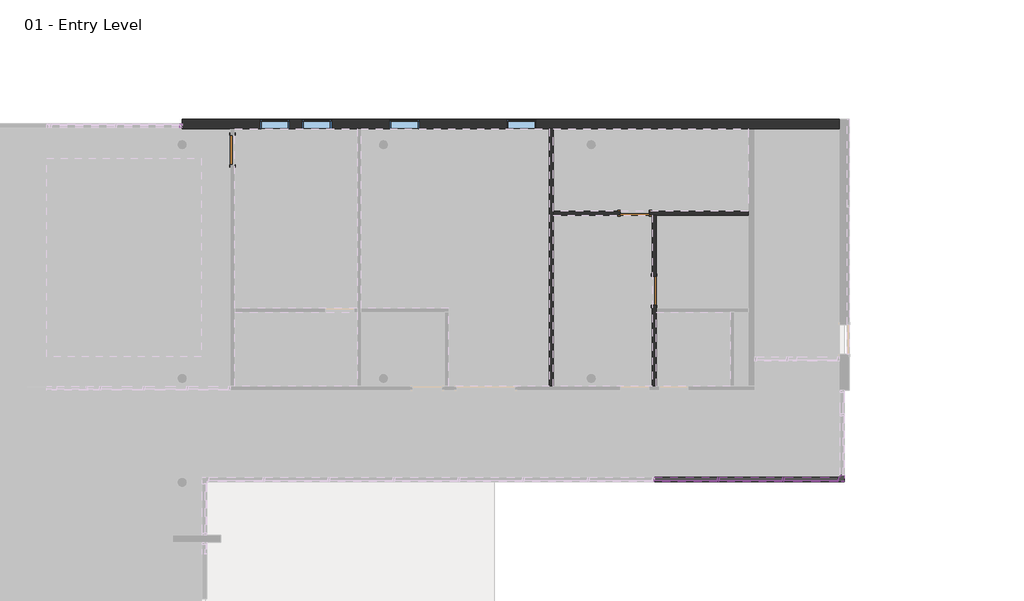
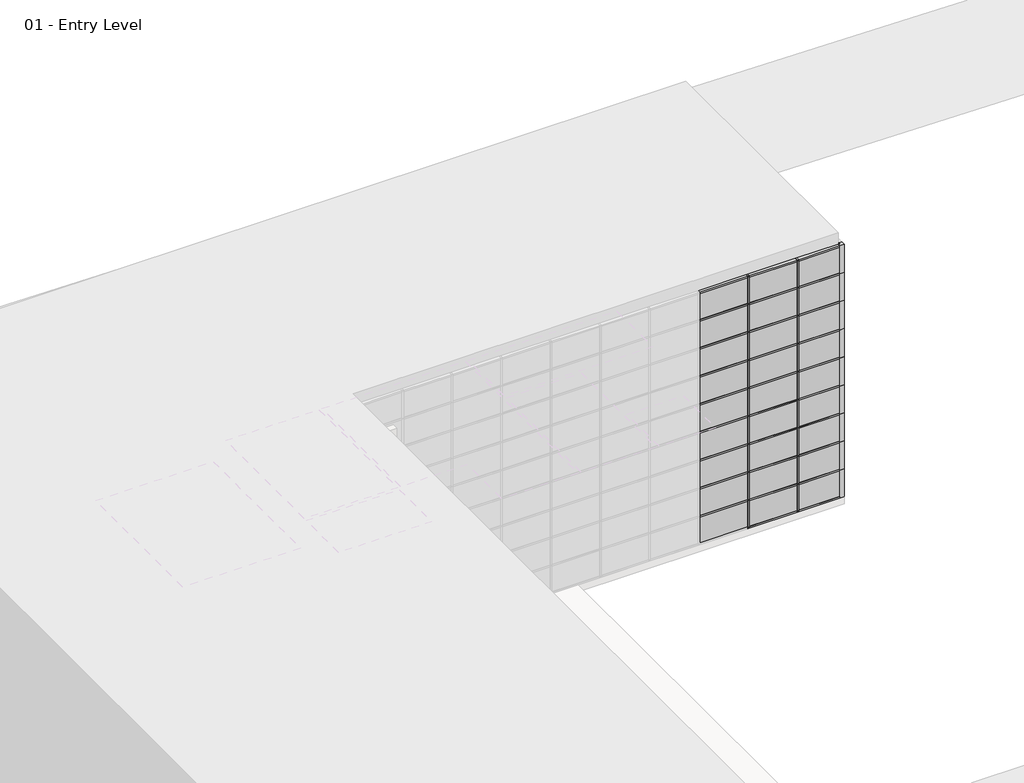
# One storey, part 30 of 34: 60 members, 27 plates, 4 walls, 4 windows, 3 doors.
"""IFC4 building model written with IfcOpenShell, lengths in millimetres."""

from ifc_helpers import new_model, si_unit, origin, place, context, project, spatial, faceted_brep, transform, mapped, element, save
from components import door_a1797ceb, door_a3eb833a, member_6230916f, member_2b49869a, member_391b434c, member_9e90ae50, member_515a5600, member_9fe7059d, member_9822c4e5, system_panel_glazed_1b9d6098, system_panel_glazed_70da479d, system_panel_glazed_379c68fb, system_panel_glazed_1c1023c8, window_dfee3f32

model = new_model("IFC4")

# Units and contexts
model_context = context("Model", 3, world=origin())
ifc_project = project(units=[si_unit("LENGTHUNIT", "METRE", prefix="MILLI")], contexts=[model_context])

# Site, building, storey
site = spatial("IfcSite", under=ifc_project)
building = spatial("IfcBuilding", under=site)
storey = spatial("IfcBuildingStorey", under=building, Name="01 - Entry Level", Elevation=0.0)

# Doors
placement = place(None, origin())
door_shape = door_a1797ceb(model_context)
element("IfcDoor", 1, ObjectType="Single-Flush : 36\" x 84\"", at=placement, inside=storey, context=model_context, shape_type="MappedRepresentation", body=[
    mapped(door_shape, transform((31255.6207476, 48656.8, 0.0), x_axis=(0.0, -1.0, 0.0), y_axis=(1.0, 0.0, 0.0), z_axis=(0.0, 0.0, 1.0))),
])
door_2_shape = door_a3eb833a(model_context)
element("IfcDoor", 2, ObjectType="Single-Flush : 36\" x 84\"", at=placement, inside=storey, context=model_context, shape_type="MappedRepresentation", body=[
    mapped(door_2_shape, transform((30646.0207476, 51082.5, 0.0), x_axis=(1.0, 0.0, 0.0), y_axis=(0.0, 1.0, 0.0), z_axis=(0.0, 0.0, 1.0))),
])
element("IfcDoor", 3, ObjectType="Single-Flush-Dbl Acting : 36\" x 84\"", at=placement, inside=storey, context=model_context, shape_type="MappedRepresentation", body=[
    mapped(door_shape, transform((18060.3207476, 53063.7, 0.0), x_axis=(0.0, 1.0, 0.0), y_axis=(-1.0, 0.0, 0.0), z_axis=(0.0, 0.0, 1.0))),
])

# Members
member_shape = member_6230916f(model_context)
element("IfcMember", 4, ObjectType="L Corner Mullion : 5\" x 5\" Corner", at=placement, inside=storey, context=model_context, shape_type="MappedRepresentation", body=[
    mapped(member_shape, transform((37148.4207476, 42751.3, 10972.8), x_axis=(0.0, -1.0, 0.0), y_axis=(1.0, 0.0, 0.0), z_axis=(0.0, 0.0, 1.0))),
])
element("IfcMember", 5, ObjectType="L Corner Mullion : 5\" x 5\" Corner", at=placement, inside=storey, context=model_context, shape_type="MappedRepresentation", body=[
    mapped(member_shape, transform((37148.4207476, 42751.3, 1219.2), x_axis=(0.0, -1.0, 0.0), y_axis=(1.0, 0.0, 0.0), z_axis=(0.0, 0.0, 1.0))),
])
element("IfcMember", 6, ObjectType="L Corner Mullion : 5\" x 5\" Corner", at=placement, inside=storey, context=model_context, shape_type="MappedRepresentation", body=[
    mapped(member_shape, transform((37148.4207476, 42751.3, 2438.4), x_axis=(0.0, -1.0, 0.0), y_axis=(1.0, 0.0, 0.0), z_axis=(0.0, 0.0, 1.0))),
])
element("IfcMember", 7, ObjectType="L Corner Mullion : 5\" x 5\" Corner", at=placement, inside=storey, context=model_context, shape_type="MappedRepresentation", body=[
    mapped(member_shape, transform((37148.4207476, 42751.3, 3657.6), x_axis=(0.0, -1.0, 0.0), y_axis=(1.0, 0.0, 0.0), z_axis=(0.0, 0.0, 1.0))),
])
element("IfcMember", 8, ObjectType="L Corner Mullion : 5\" x 5\" Corner", at=placement, inside=storey, context=model_context, shape_type="MappedRepresentation", body=[
    mapped(member_shape, transform((37148.4207476, 42751.3, 4876.8), x_axis=(0.0, -1.0, 0.0), y_axis=(1.0, 0.0, 0.0), z_axis=(0.0, 0.0, 1.0))),
])
element("IfcMember", 9, ObjectType="L Corner Mullion : 5\" x 5\" Corner", at=placement, inside=storey, context=model_context, shape_type="MappedRepresentation", body=[
    mapped(member_shape, transform((37148.4207476, 42751.3, 6096.0), x_axis=(0.0, -1.0, 0.0), y_axis=(1.0, 0.0, 0.0), z_axis=(0.0, 0.0, 1.0))),
])
element("IfcMember", 10, ObjectType="L Corner Mullion : 5\" x 5\" Corner", at=placement, inside=storey, context=model_context, shape_type="MappedRepresentation", body=[
    mapped(member_shape, transform((37148.4207476, 42751.3, 7315.2), x_axis=(0.0, -1.0, 0.0), y_axis=(1.0, 0.0, 0.0), z_axis=(0.0, 0.0, 1.0))),
])
element("IfcMember", 11, ObjectType="L Corner Mullion : 5\" x 5\" Corner", at=placement, inside=storey, context=model_context, shape_type="MappedRepresentation", body=[
    mapped(member_shape, transform((37148.4207476, 42751.3, 8534.4), x_axis=(0.0, -1.0, 0.0), y_axis=(1.0, 0.0, 0.0), z_axis=(0.0, 0.0, 1.0))),
])
element("IfcMember", 12, ObjectType="L Corner Mullion : 5\" x 5\" Corner", at=placement, inside=storey, context=model_context, shape_type="MappedRepresentation", body=[
    mapped(member_shape, transform((37148.4207476, 42751.3, 9753.6), x_axis=(0.0, -1.0, 0.0), y_axis=(1.0, 0.0, 0.0), z_axis=(0.0, 0.0, 1.0))),
])
member_2_shape = member_2b49869a(model_context)
element("IfcMember", 13, ObjectType="Rectangular Mullion : 2.5\" x 5\" rectangular", at=placement, inside=storey, context=model_context, shape_type="MappedRepresentation", body=[
    mapped(member_2_shape, transform((33262.2207476, 42751.3, 9753.6), x_axis=(1.0, 0.0, 0.0), y_axis=(0.0, -1.0, 0.0), z_axis=(0.0, 0.0, -1.0))),
])
element("IfcMember", 14, ObjectType="Rectangular Mullion : 2.5\" x 5\" rectangular", at=placement, inside=storey, context=model_context, shape_type="MappedRepresentation", body=[
    mapped(member_2_shape, transform((35294.2207476, 42751.3, 9753.6), x_axis=(1.0, 0.0, 0.0), y_axis=(0.0, -1.0, 0.0), z_axis=(0.0, 0.0, -1.0))),
])
element("IfcMember", 15, ObjectType="Rectangular Mullion : 2.5\" x 5\" rectangular", at=placement, inside=storey, context=model_context, shape_type="MappedRepresentation", body=[
    mapped(member_2_shape, transform((16434.7207476, 53825.7, 9753.6), x_axis=(-1.0, 0.0, 0.0), y_axis=(0.0, 1.0, 0.0), z_axis=(0.0, 0.0, -1.0))),
])
member_3_shape = member_391b434c(model_context)
element("IfcMember", 16, ObjectType="Rectangular Mullion : 2.5\" x 5\" rectangular", at=placement, inside=storey, context=model_context, shape_type="MappedRepresentation", body=[
    mapped(member_3_shape, transform((33230.4707476, 42751.3, 10972.8), x_axis=(0.0, 0.0, 1.0), y_axis=(0.0, -1.0, 0.0), z_axis=(1.0, 0.0, 0.0))),
])
element("IfcMember", 17, ObjectType="Rectangular Mullion : 2.5\" x 5\" rectangular", at=placement, inside=storey, context=model_context, shape_type="MappedRepresentation", body=[
    mapped(member_3_shape, transform((35262.4707476, 42751.3, 10972.8), x_axis=(0.0, 0.0, 1.0), y_axis=(0.0, -1.0, 0.0), z_axis=(1.0, 0.0, 0.0))),
])
element("IfcMember", 18, ObjectType="Rectangular Mullion : 2.5\" x 5\" rectangular", at=placement, inside=storey, context=model_context, shape_type="MappedRepresentation", body=[
    mapped(member_3_shape, transform((33293.9707476, 42751.3, 0.0), x_axis=(0.0, 0.0, -1.0), y_axis=(0.0, -1.0, 0.0), z_axis=(-1.0, 0.0, 0.0))),
])
member_4_shape = member_9e90ae50(model_context)
element("IfcMember", 19, ObjectType="Rectangular Mullion : 2.5\" x 5\" rectangular", at=placement, inside=storey, context=model_context, shape_type="MappedRepresentation", body=[
    mapped(member_4_shape, transform((33230.4707476, 42751.3, 1219.2), x_axis=(0.0, 0.0, 1.0), y_axis=(0.0, -1.0, 0.0), z_axis=(1.0, 0.0, 0.0))),
])
element("IfcMember", 20, ObjectType="Rectangular Mullion : 2.5\" x 5\" rectangular", at=placement, inside=storey, context=model_context, shape_type="MappedRepresentation", body=[
    mapped(member_4_shape, transform((35262.4707476, 42751.3, 1219.2), x_axis=(0.0, 0.0, 1.0), y_axis=(0.0, -1.0, 0.0), z_axis=(1.0, 0.0, 0.0))),
])
element("IfcMember", 21, ObjectType="Rectangular Mullion : 2.5\" x 5\" rectangular", at=placement, inside=storey, context=model_context, shape_type="MappedRepresentation", body=[
    mapped(member_4_shape, transform((33230.4707476, 42751.3, 2438.4), x_axis=(0.0, 0.0, 1.0), y_axis=(0.0, -1.0, 0.0), z_axis=(1.0, 0.0, 0.0))),
])
element("IfcMember", 22, ObjectType="Rectangular Mullion : 2.5\" x 5\" rectangular", at=placement, inside=storey, context=model_context, shape_type="MappedRepresentation", body=[
    mapped(member_4_shape, transform((35262.4707476, 42751.3, 2438.4), x_axis=(0.0, 0.0, 1.0), y_axis=(0.0, -1.0, 0.0), z_axis=(1.0, 0.0, 0.0))),
])
element("IfcMember", 23, ObjectType="Rectangular Mullion : 2.5\" x 5\" rectangular", at=placement, inside=storey, context=model_context, shape_type="MappedRepresentation", body=[
    mapped(member_4_shape, transform((33230.4707476, 42751.3, 3657.6), x_axis=(0.0, 0.0, 1.0), y_axis=(0.0, -1.0, 0.0), z_axis=(1.0, 0.0, 0.0))),
])
element("IfcMember", 24, ObjectType="Rectangular Mullion : 2.5\" x 5\" rectangular", at=placement, inside=storey, context=model_context, shape_type="MappedRepresentation", body=[
    mapped(member_4_shape, transform((35262.4707476, 42751.3, 3657.6), x_axis=(0.0, 0.0, 1.0), y_axis=(0.0, -1.0, 0.0), z_axis=(1.0, 0.0, 0.0))),
])
element("IfcMember", 25, ObjectType="Rectangular Mullion : 2.5\" x 5\" rectangular", at=placement, inside=storey, context=model_context, shape_type="MappedRepresentation", body=[
    mapped(member_4_shape, transform((33230.4707476, 42751.3, 4876.8), x_axis=(0.0, 0.0, 1.0), y_axis=(0.0, -1.0, 0.0), z_axis=(1.0, 0.0, 0.0))),
])
element("IfcMember", 26, ObjectType="Rectangular Mullion : 2.5\" x 5\" rectangular", at=placement, inside=storey, context=model_context, shape_type="MappedRepresentation", body=[
    mapped(member_4_shape, transform((35262.4707476, 42751.3, 4876.8), x_axis=(0.0, 0.0, 1.0), y_axis=(0.0, -1.0, 0.0), z_axis=(1.0, 0.0, 0.0))),
])
element("IfcMember", 27, ObjectType="Rectangular Mullion : 2.5\" x 5\" rectangular", at=placement, inside=storey, context=model_context, shape_type="MappedRepresentation", body=[
    mapped(member_4_shape, transform((33230.4707476, 42751.3, 6096.0), x_axis=(0.0, 0.0, 1.0), y_axis=(0.0, -1.0, 0.0), z_axis=(1.0, 0.0, 0.0))),
])
element("IfcMember", 28, ObjectType="Rectangular Mullion : 2.5\" x 5\" rectangular", at=placement, inside=storey, context=model_context, shape_type="MappedRepresentation", body=[
    mapped(member_4_shape, transform((35262.4707476, 42751.3, 6096.0), x_axis=(0.0, 0.0, 1.0), y_axis=(0.0, -1.0, 0.0), z_axis=(1.0, 0.0, 0.0))),
])
element("IfcMember", 29, ObjectType="Rectangular Mullion : 2.5\" x 5\" rectangular", at=placement, inside=storey, context=model_context, shape_type="MappedRepresentation", body=[
    mapped(member_4_shape, transform((33230.4707476, 42751.3, 7315.2), x_axis=(0.0, 0.0, 1.0), y_axis=(0.0, -1.0, 0.0), z_axis=(1.0, 0.0, 0.0))),
])
element("IfcMember", 30, ObjectType="Rectangular Mullion : 2.5\" x 5\" rectangular", at=placement, inside=storey, context=model_context, shape_type="MappedRepresentation", body=[
    mapped(member_4_shape, transform((35262.4707476, 42751.3, 7315.2), x_axis=(0.0, 0.0, 1.0), y_axis=(0.0, -1.0, 0.0), z_axis=(1.0, 0.0, 0.0))),
])
element("IfcMember", 31, ObjectType="Rectangular Mullion : 2.5\" x 5\" rectangular", at=placement, inside=storey, context=model_context, shape_type="MappedRepresentation", body=[
    mapped(member_4_shape, transform((33230.4707476, 42751.3, 8534.4), x_axis=(0.0, 0.0, 1.0), y_axis=(0.0, -1.0, 0.0), z_axis=(1.0, 0.0, 0.0))),
])
element("IfcMember", 32, ObjectType="Rectangular Mullion : 2.5\" x 5\" rectangular", at=placement, inside=storey, context=model_context, shape_type="MappedRepresentation", body=[
    mapped(member_4_shape, transform((35262.4707476, 42751.3, 8534.4), x_axis=(0.0, 0.0, 1.0), y_axis=(0.0, -1.0, 0.0), z_axis=(1.0, 0.0, 0.0))),
])
element("IfcMember", 33, ObjectType="Rectangular Mullion : 2.5\" x 5\" rectangular", at=placement, inside=storey, context=model_context, shape_type="MappedRepresentation", body=[
    mapped(member_4_shape, transform((33230.4707476, 42751.3, 9753.6), x_axis=(0.0, 0.0, 1.0), y_axis=(0.0, -1.0, 0.0), z_axis=(1.0, 0.0, 0.0))),
])
element("IfcMember", 34, ObjectType="Rectangular Mullion : 2.5\" x 5\" rectangular", at=placement, inside=storey, context=model_context, shape_type="MappedRepresentation", body=[
    mapped(member_4_shape, transform((35262.4707476, 42751.3, 9753.6), x_axis=(0.0, 0.0, 1.0), y_axis=(0.0, -1.0, 0.0), z_axis=(1.0, 0.0, 0.0))),
])
element("IfcMember", 35, ObjectType="Rectangular Mullion : 2.5\" x 5\" rectangular", at=placement, inside=storey, context=model_context, shape_type="MappedRepresentation", body=[
    mapped(member_2_shape, transform((33262.2207476, 42751.3, 0.0), x_axis=(1.0, 0.0, 0.0), y_axis=(0.0, -1.0, 0.0), z_axis=(0.0, 0.0, -1.0))),
])
element("IfcMember", 36, ObjectType="Rectangular Mullion : 2.5\" x 5\" rectangular", at=placement, inside=storey, context=model_context, shape_type="MappedRepresentation", body=[
    mapped(member_2_shape, transform((35294.2207476, 42751.3, 0.0), x_axis=(1.0, 0.0, 0.0), y_axis=(0.0, -1.0, 0.0), z_axis=(0.0, 0.0, -1.0))),
])
element("IfcMember", 37, ObjectType="Rectangular Mullion : 2.5\" x 5\" rectangular", at=placement, inside=storey, context=model_context, shape_type="MappedRepresentation", body=[
    mapped(member_2_shape, transform((33262.2207476, 42751.3, 1219.2), x_axis=(1.0, 0.0, 0.0), y_axis=(0.0, -1.0, 0.0), z_axis=(0.0, 0.0, -1.0))),
])
element("IfcMember", 38, ObjectType="Rectangular Mullion : 2.5\" x 5\" rectangular", at=placement, inside=storey, context=model_context, shape_type="MappedRepresentation", body=[
    mapped(member_2_shape, transform((35294.2207476, 42751.3, 1219.2), x_axis=(1.0, 0.0, 0.0), y_axis=(0.0, -1.0, 0.0), z_axis=(0.0, 0.0, -1.0))),
])
element("IfcMember", 39, ObjectType="Rectangular Mullion : 2.5\" x 5\" rectangular", at=placement, inside=storey, context=model_context, shape_type="MappedRepresentation", body=[
    mapped(member_2_shape, transform((33262.2207476, 42751.3, 2438.4), x_axis=(1.0, 0.0, 0.0), y_axis=(0.0, -1.0, 0.0), z_axis=(0.0, 0.0, -1.0))),
])
element("IfcMember", 40, ObjectType="Rectangular Mullion : 2.5\" x 5\" rectangular", at=placement, inside=storey, context=model_context, shape_type="MappedRepresentation", body=[
    mapped(member_2_shape, transform((35294.2207476, 42751.3, 2438.4), x_axis=(1.0, 0.0, 0.0), y_axis=(0.0, -1.0, 0.0), z_axis=(0.0, 0.0, -1.0))),
])
element("IfcMember", 41, ObjectType="Rectangular Mullion : 2.5\" x 5\" rectangular", at=placement, inside=storey, context=model_context, shape_type="MappedRepresentation", body=[
    mapped(member_2_shape, transform((33262.2207476, 42751.3, 3657.6), x_axis=(1.0, 0.0, 0.0), y_axis=(0.0, -1.0, 0.0), z_axis=(0.0, 0.0, -1.0))),
])
element("IfcMember", 42, ObjectType="Rectangular Mullion : 2.5\" x 5\" rectangular", at=placement, inside=storey, context=model_context, shape_type="MappedRepresentation", body=[
    mapped(member_2_shape, transform((35294.2207476, 42751.3, 3657.6), x_axis=(1.0, 0.0, 0.0), y_axis=(0.0, -1.0, 0.0), z_axis=(0.0, 0.0, -1.0))),
])
element("IfcMember", 43, ObjectType="Rectangular Mullion : 2.5\" x 5\" rectangular", at=placement, inside=storey, context=model_context, shape_type="MappedRepresentation", body=[
    mapped(member_2_shape, transform((33262.2207476, 42751.3, 4876.8), x_axis=(1.0, 0.0, 0.0), y_axis=(0.0, -1.0, 0.0), z_axis=(0.0, 0.0, -1.0))),
])
element("IfcMember", 44, ObjectType="Rectangular Mullion : 2.5\" x 5\" rectangular", at=placement, inside=storey, context=model_context, shape_type="MappedRepresentation", body=[
    mapped(member_2_shape, transform((35294.2207476, 42751.3, 4876.8), x_axis=(1.0, 0.0, 0.0), y_axis=(0.0, -1.0, 0.0), z_axis=(0.0, 0.0, -1.0))),
])
element("IfcMember", 45, ObjectType="Rectangular Mullion : 2.5\" x 5\" rectangular", at=placement, inside=storey, context=model_context, shape_type="MappedRepresentation", body=[
    mapped(member_2_shape, transform((33262.2207476, 42751.3, 6096.0), x_axis=(1.0, 0.0, 0.0), y_axis=(0.0, -1.0, 0.0), z_axis=(0.0, 0.0, -1.0))),
])
element("IfcMember", 46, ObjectType="Rectangular Mullion : 2.5\" x 5\" rectangular", at=placement, inside=storey, context=model_context, shape_type="MappedRepresentation", body=[
    mapped(member_2_shape, transform((35294.2207476, 42751.3, 6096.0), x_axis=(1.0, 0.0, 0.0), y_axis=(0.0, -1.0, 0.0), z_axis=(0.0, 0.0, -1.0))),
])
element("IfcMember", 47, ObjectType="Rectangular Mullion : 2.5\" x 5\" rectangular", at=placement, inside=storey, context=model_context, shape_type="MappedRepresentation", body=[
    mapped(member_2_shape, transform((33262.2207476, 42751.3, 7315.2), x_axis=(1.0, 0.0, 0.0), y_axis=(0.0, -1.0, 0.0), z_axis=(0.0, 0.0, -1.0))),
])
element("IfcMember", 48, ObjectType="Rectangular Mullion : 2.5\" x 5\" rectangular", at=placement, inside=storey, context=model_context, shape_type="MappedRepresentation", body=[
    mapped(member_2_shape, transform((35294.2207476, 42751.3, 7315.2), x_axis=(1.0, 0.0, 0.0), y_axis=(0.0, -1.0, 0.0), z_axis=(0.0, 0.0, -1.0))),
])
element("IfcMember", 49, ObjectType="Rectangular Mullion : 2.5\" x 5\" rectangular", at=placement, inside=storey, context=model_context, shape_type="MappedRepresentation", body=[
    mapped(member_2_shape, transform((33262.2207476, 42751.3, 8534.4), x_axis=(1.0, 0.0, 0.0), y_axis=(0.0, -1.0, 0.0), z_axis=(0.0, 0.0, -1.0))),
])
element("IfcMember", 50, ObjectType="Rectangular Mullion : 2.5\" x 5\" rectangular", at=placement, inside=storey, context=model_context, shape_type="MappedRepresentation", body=[
    mapped(member_2_shape, transform((35294.2207476, 42751.3, 8534.4), x_axis=(1.0, 0.0, 0.0), y_axis=(0.0, -1.0, 0.0), z_axis=(0.0, 0.0, -1.0))),
])
element("IfcMember", 51, ObjectType="Rectangular Mullion : 2.5\" x 5\" rectangular", at=placement, inside=storey, context=model_context, shape_type="MappedRepresentation", body=[
    mapped(member_2_shape, transform((16434.7207476, 53825.7, 7315.2), x_axis=(-1.0, 0.0, 0.0), y_axis=(0.0, 1.0, 0.0), z_axis=(0.0, 0.0, -1.0))),
])
element("IfcMember", 52, ObjectType="Rectangular Mullion : 2.5\" x 5\" rectangular", at=placement, inside=storey, context=model_context, shape_type="MappedRepresentation", body=[
    mapped(member_2_shape, transform((16434.7207476, 53825.7, 8534.4), x_axis=(-1.0, 0.0, 0.0), y_axis=(0.0, 1.0, 0.0), z_axis=(0.0, 0.0, -1.0))),
])
member_5_shape = member_515a5600(model_context)
element("IfcMember", 53, ObjectType="Rectangular Mullion : 2.5\" x 5\" rectangular", at=placement, inside=storey, context=model_context, shape_type="MappedRepresentation", body=[
    mapped(member_5_shape, transform((37021.4207476, 42751.3, 10972.8), x_axis=(0.0, 0.0, 1.0), y_axis=(0.0, -1.0, 0.0), z_axis=(1.0, 0.0, 0.0))),
])
element("IfcMember", 54, ObjectType="Rectangular Mullion : 2.5\" x 5\" rectangular", at=placement, inside=storey, context=model_context, shape_type="MappedRepresentation", body=[
    mapped(member_5_shape, transform((35325.9707476, 42751.3, 0.0), x_axis=(0.0, 0.0, -1.0), y_axis=(0.0, -1.0, 0.0), z_axis=(-1.0, 0.0, 0.0))),
])
member_6_shape = member_9fe7059d(model_context)
element("IfcMember", 55, ObjectType="Rectangular Mullion : 2.5\" x 5\" rectangular", at=placement, inside=storey, context=model_context, shape_type="MappedRepresentation", body=[
    mapped(member_6_shape, transform((37021.4207476, 42751.3, 1219.2), x_axis=(0.0, 0.0, 1.0), y_axis=(0.0, -1.0, 0.0), z_axis=(1.0, 0.0, 0.0))),
])
element("IfcMember", 56, ObjectType="Rectangular Mullion : 2.5\" x 5\" rectangular", at=placement, inside=storey, context=model_context, shape_type="MappedRepresentation", body=[
    mapped(member_6_shape, transform((37021.4207476, 42751.3, 2438.4), x_axis=(0.0, 0.0, 1.0), y_axis=(0.0, -1.0, 0.0), z_axis=(1.0, 0.0, 0.0))),
])
element("IfcMember", 57, ObjectType="Rectangular Mullion : 2.5\" x 5\" rectangular", at=placement, inside=storey, context=model_context, shape_type="MappedRepresentation", body=[
    mapped(member_6_shape, transform((37021.4207476, 42751.3, 3657.6), x_axis=(0.0, 0.0, 1.0), y_axis=(0.0, -1.0, 0.0), z_axis=(1.0, 0.0, 0.0))),
])
element("IfcMember", 58, ObjectType="Rectangular Mullion : 2.5\" x 5\" rectangular", at=placement, inside=storey, context=model_context, shape_type="MappedRepresentation", body=[
    mapped(member_6_shape, transform((37021.4207476, 42751.3, 4876.8), x_axis=(0.0, 0.0, 1.0), y_axis=(0.0, -1.0, 0.0), z_axis=(1.0, 0.0, 0.0))),
])
element("IfcMember", 59, ObjectType="Rectangular Mullion : 2.5\" x 5\" rectangular", at=placement, inside=storey, context=model_context, shape_type="MappedRepresentation", body=[
    mapped(member_6_shape, transform((37021.4207476, 42751.3, 6096.0), x_axis=(0.0, 0.0, 1.0), y_axis=(0.0, -1.0, 0.0), z_axis=(1.0, 0.0, 0.0))),
])
element("IfcMember", 60, ObjectType="Rectangular Mullion : 2.5\" x 5\" rectangular", at=placement, inside=storey, context=model_context, shape_type="MappedRepresentation", body=[
    mapped(member_6_shape, transform((37021.4207476, 42751.3, 7315.2), x_axis=(0.0, 0.0, 1.0), y_axis=(0.0, -1.0, 0.0), z_axis=(1.0, 0.0, 0.0))),
])
element("IfcMember", 61, ObjectType="Rectangular Mullion : 2.5\" x 5\" rectangular", at=placement, inside=storey, context=model_context, shape_type="MappedRepresentation", body=[
    mapped(member_6_shape, transform((37021.4207476, 42751.3, 8534.4), x_axis=(0.0, 0.0, 1.0), y_axis=(0.0, -1.0, 0.0), z_axis=(1.0, 0.0, 0.0))),
])
element("IfcMember", 62, ObjectType="Rectangular Mullion : 2.5\" x 5\" rectangular", at=placement, inside=storey, context=model_context, shape_type="MappedRepresentation", body=[
    mapped(member_6_shape, transform((37021.4207476, 42751.3, 9753.6), x_axis=(0.0, 0.0, 1.0), y_axis=(0.0, -1.0, 0.0), z_axis=(1.0, 0.0, 0.0))),
])
member_7_shape = member_9822c4e5(model_context)
element("IfcMember", 63, ObjectType="Rectangular Mullion : 2.5\" x 5\" rectangular", at=placement, inside=storey, context=model_context, shape_type="MappedRepresentation", body=[
    mapped(member_7_shape, transform((37148.4207476, 42878.3, 0.0), x_axis=(0.0, 0.0, -1.0), y_axis=(1.0, 0.0, 0.0), z_axis=(0.0, -1.0, 0.0))),
])

# Plates
system_panel_glazed_shape = system_panel_glazed_1b9d6098(model_context)
element("IfcPlate", 64, ObjectType="System Panel : Glazed", at=placement, inside=storey, context=model_context, shape_type="MappedRepresentation", body=[
    mapped(system_panel_glazed_shape, transform((32246.2207476, 42751.3, 63.5), x_axis=(1.0, 0.0, 0.0), y_axis=(0.0, 1.0, 0.0), z_axis=(0.0, 0.0, 1.0))),
])
element("IfcPlate", 65, ObjectType="System Panel : Glazed", at=placement, inside=storey, context=model_context, shape_type="MappedRepresentation", body=[
    mapped(system_panel_glazed_shape, transform((34278.2207476, 42751.3, 63.5), x_axis=(1.0, 0.0, 0.0), y_axis=(0.0, 1.0, 0.0), z_axis=(0.0, 0.0, 1.0))),
])
element("IfcPlate", 66, ObjectType="System Panel : Glazed", at=placement, inside=storey, context=model_context, shape_type="MappedRepresentation", body=[
    mapped(system_panel_glazed_shape, transform((32246.2207476, 42751.3, 9785.35), x_axis=(1.0, 0.0, 0.0), y_axis=(0.0, 1.0, 0.0), z_axis=(0.0, 0.0, 1.0))),
])
element("IfcPlate", 67, ObjectType="System Panel : Glazed", at=placement, inside=storey, context=model_context, shape_type="MappedRepresentation", body=[
    mapped(system_panel_glazed_shape, transform((34278.2207476, 42751.3, 9785.35), x_axis=(1.0, 0.0, 0.0), y_axis=(0.0, 1.0, 0.0), z_axis=(0.0, 0.0, 1.0))),
])
system_panel_glazed_2_shape = system_panel_glazed_70da479d(model_context)
element("IfcPlate", 68, ObjectType="System Panel : Glazed", at=placement, inside=storey, context=model_context, shape_type="MappedRepresentation", body=[
    mapped(system_panel_glazed_2_shape, transform((32246.2207476, 42751.3, 1250.95), x_axis=(1.0, 0.0, 0.0), y_axis=(0.0, 1.0, 0.0), z_axis=(0.0, 0.0, 1.0))),
])
element("IfcPlate", 69, ObjectType="System Panel : Glazed", at=placement, inside=storey, context=model_context, shape_type="MappedRepresentation", body=[
    mapped(system_panel_glazed_2_shape, transform((34278.2207476, 42751.3, 1250.95), x_axis=(1.0, 0.0, 0.0), y_axis=(0.0, 1.0, 0.0), z_axis=(0.0, 0.0, 1.0))),
])
element("IfcPlate", 70, ObjectType="System Panel : Glazed", at=placement, inside=storey, context=model_context, shape_type="MappedRepresentation", body=[
    mapped(system_panel_glazed_2_shape, transform((32246.2207476, 42751.3, 2470.15), x_axis=(1.0, 0.0, 0.0), y_axis=(0.0, 1.0, 0.0), z_axis=(0.0, 0.0, 1.0))),
])
element("IfcPlate", 71, ObjectType="System Panel : Glazed", at=placement, inside=storey, context=model_context, shape_type="MappedRepresentation", body=[
    mapped(system_panel_glazed_2_shape, transform((34278.2207476, 42751.3, 2470.15), x_axis=(1.0, 0.0, 0.0), y_axis=(0.0, 1.0, 0.0), z_axis=(0.0, 0.0, 1.0))),
])
element("IfcPlate", 72, ObjectType="System Panel : Glazed", at=placement, inside=storey, context=model_context, shape_type="MappedRepresentation", body=[
    mapped(system_panel_glazed_2_shape, transform((32246.2207476, 42751.3, 3689.35), x_axis=(1.0, 0.0, 0.0), y_axis=(0.0, 1.0, 0.0), z_axis=(0.0, 0.0, 1.0))),
])
element("IfcPlate", 73, ObjectType="System Panel : Glazed", at=placement, inside=storey, context=model_context, shape_type="MappedRepresentation", body=[
    mapped(system_panel_glazed_2_shape, transform((34278.2207476, 42751.3, 3689.35), x_axis=(1.0, 0.0, 0.0), y_axis=(0.0, 1.0, 0.0), z_axis=(0.0, 0.0, 1.0))),
])
element("IfcPlate", 74, ObjectType="System Panel : Glazed", at=placement, inside=storey, context=model_context, shape_type="MappedRepresentation", body=[
    mapped(system_panel_glazed_2_shape, transform((32246.2207476, 42751.3, 4908.55), x_axis=(1.0, 0.0, 0.0), y_axis=(0.0, 1.0, 0.0), z_axis=(0.0, 0.0, 1.0))),
])
element("IfcPlate", 75, ObjectType="System Panel : Glazed", at=placement, inside=storey, context=model_context, shape_type="MappedRepresentation", body=[
    mapped(system_panel_glazed_2_shape, transform((34278.2207476, 42751.3, 4908.55), x_axis=(1.0, 0.0, 0.0), y_axis=(0.0, 1.0, 0.0), z_axis=(0.0, 0.0, 1.0))),
])
element("IfcPlate", 76, ObjectType="System Panel : Glazed", at=placement, inside=storey, context=model_context, shape_type="MappedRepresentation", body=[
    mapped(system_panel_glazed_2_shape, transform((32246.2207476, 42751.3, 6127.75), x_axis=(1.0, 0.0, 0.0), y_axis=(0.0, 1.0, 0.0), z_axis=(0.0, 0.0, 1.0))),
])
element("IfcPlate", 77, ObjectType="System Panel : Glazed", at=placement, inside=storey, context=model_context, shape_type="MappedRepresentation", body=[
    mapped(system_panel_glazed_2_shape, transform((34278.2207476, 42751.3, 6127.75), x_axis=(1.0, 0.0, 0.0), y_axis=(0.0, 1.0, 0.0), z_axis=(0.0, 0.0, 1.0))),
])
element("IfcPlate", 78, ObjectType="System Panel : Glazed", at=placement, inside=storey, context=model_context, shape_type="MappedRepresentation", body=[
    mapped(system_panel_glazed_2_shape, transform((32246.2207476, 42751.3, 7346.95), x_axis=(1.0, 0.0, 0.0), y_axis=(0.0, 1.0, 0.0), z_axis=(0.0, 0.0, 1.0))),
])
element("IfcPlate", 79, ObjectType="System Panel : Glazed", at=placement, inside=storey, context=model_context, shape_type="MappedRepresentation", body=[
    mapped(system_panel_glazed_2_shape, transform((34278.2207476, 42751.3, 7346.95), x_axis=(1.0, 0.0, 0.0), y_axis=(0.0, 1.0, 0.0), z_axis=(0.0, 0.0, 1.0))),
])
element("IfcPlate", 80, ObjectType="System Panel : Glazed", at=placement, inside=storey, context=model_context, shape_type="MappedRepresentation", body=[
    mapped(system_panel_glazed_2_shape, transform((32246.2207476, 42751.3, 8566.15), x_axis=(1.0, 0.0, 0.0), y_axis=(0.0, 1.0, 0.0), z_axis=(0.0, 0.0, 1.0))),
])
element("IfcPlate", 81, ObjectType="System Panel : Glazed", at=placement, inside=storey, context=model_context, shape_type="MappedRepresentation", body=[
    mapped(system_panel_glazed_2_shape, transform((34278.2207476, 42751.3, 8566.15), x_axis=(1.0, 0.0, 0.0), y_axis=(0.0, 1.0, 0.0), z_axis=(0.0, 0.0, 1.0))),
])
system_panel_glazed_3_shape = system_panel_glazed_379c68fb(model_context)
element("IfcPlate", 82, ObjectType="System Panel : Glazed", at=placement, inside=storey, context=model_context, shape_type="MappedRepresentation", body=[
    mapped(system_panel_glazed_3_shape, transform((36173.6957476, 42751.3, 63.5), x_axis=(1.0, 0.0, 0.0), y_axis=(0.0, 1.0, 0.0), z_axis=(0.0, 0.0, 1.0))),
])
element("IfcPlate", 83, ObjectType="System Panel : Glazed", at=placement, inside=storey, context=model_context, shape_type="MappedRepresentation", body=[
    mapped(system_panel_glazed_3_shape, transform((36173.6957476, 42751.3, 9785.35), x_axis=(1.0, 0.0, 0.0), y_axis=(0.0, 1.0, 0.0), z_axis=(0.0, 0.0, 1.0))),
])
system_panel_glazed_4_shape = system_panel_glazed_1c1023c8(model_context)
element("IfcPlate", 84, ObjectType="System Panel : Glazed", at=placement, inside=storey, context=model_context, shape_type="MappedRepresentation", body=[
    mapped(system_panel_glazed_4_shape, transform((36173.6957476, 42751.3, 1250.95), x_axis=(1.0, 0.0, 0.0), y_axis=(0.0, 1.0, 0.0), z_axis=(0.0, 0.0, 1.0))),
])
element("IfcPlate", 85, ObjectType="System Panel : Glazed", at=placement, inside=storey, context=model_context, shape_type="MappedRepresentation", body=[
    mapped(system_panel_glazed_4_shape, transform((36173.6957476, 42751.3, 2470.15), x_axis=(1.0, 0.0, 0.0), y_axis=(0.0, 1.0, 0.0), z_axis=(0.0, 0.0, 1.0))),
])
element("IfcPlate", 86, ObjectType="System Panel : Glazed", at=placement, inside=storey, context=model_context, shape_type="MappedRepresentation", body=[
    mapped(system_panel_glazed_4_shape, transform((36173.6957476, 42751.3, 3689.35), x_axis=(1.0, 0.0, 0.0), y_axis=(0.0, 1.0, 0.0), z_axis=(0.0, 0.0, 1.0))),
])
element("IfcPlate", 87, ObjectType="System Panel : Glazed", at=placement, inside=storey, context=model_context, shape_type="MappedRepresentation", body=[
    mapped(system_panel_glazed_4_shape, transform((36173.6957476, 42751.3, 4908.55), x_axis=(1.0, 0.0, 0.0), y_axis=(0.0, 1.0, 0.0), z_axis=(0.0, 0.0, 1.0))),
])
element("IfcPlate", 88, ObjectType="System Panel : Glazed", at=placement, inside=storey, context=model_context, shape_type="MappedRepresentation", body=[
    mapped(system_panel_glazed_4_shape, transform((36173.6957476, 42751.3, 6127.75), x_axis=(1.0, 0.0, 0.0), y_axis=(0.0, 1.0, 0.0), z_axis=(0.0, 0.0, 1.0))),
])
element("IfcPlate", 89, ObjectType="System Panel : Glazed", at=placement, inside=storey, context=model_context, shape_type="MappedRepresentation", body=[
    mapped(system_panel_glazed_4_shape, transform((36173.6957476, 42751.3, 7346.95), x_axis=(1.0, 0.0, 0.0), y_axis=(0.0, 1.0, 0.0), z_axis=(0.0, 0.0, 1.0))),
])
element("IfcPlate", 90, ObjectType="System Panel : Glazed", at=placement, inside=storey, context=model_context, shape_type="MappedRepresentation", body=[
    mapped(system_panel_glazed_4_shape, transform((36173.6957476, 42751.3, 8566.15), x_axis=(1.0, 0.0, 0.0), y_axis=(0.0, 1.0, 0.0), z_axis=(0.0, 0.0, 1.0))),
])

# Walls
element("IfcWall", 91, ObjectType="Exterior - EIFS on CMU", at=placement, inside=storey, context=model_context, shape_type="Brep", body=[
    faceted_brep([(37046.8207476, 54032.075, 0.0), (16485.5207476, 54032.075, 0.0), (16485.5207476, 54032.075, 10972.8), (34405.2207476, 54032.075, 10972.8), (34405.2207476, 54032.075, 3657.6), (37046.8207476, 54032.075, 3657.6), (27559.6032476, 54032.075, 2133.6), (26645.2032476, 54032.075, 2133.6), (26645.2032476, 54032.075, 914.4), (27559.6032476, 54032.075, 914.4), (23902.3207476, 54032.075, 2133.6), (22987.9207476, 54032.075, 2133.6), (22987.9207476, 54032.075, 914.4), (23902.3207476, 54032.075, 914.4), (21159.1207476, 54032.075, 2133.6), (20244.7207476, 54032.075, 2133.6), (20244.7207476, 54032.075, 914.4), (21159.1207476, 54032.075, 914.4), (19838.3207476, 54032.075, 2133.6), (18923.9207476, 54032.075, 2133.6), (18923.9207476, 54032.075, 914.4), (19838.3207476, 54032.075, 914.4), (19381.1207476, 54032.075, 5791.2), (18466.7207476, 54032.075, 5791.2), (18466.7207476, 54032.075, 4572.0), (19381.1207476, 54032.075, 4572.0), (21565.5207476, 54032.075, 5791.2), (20651.1207476, 54032.075, 5791.2), (20651.1207476, 54032.075, 4572.0), (21565.5207476, 54032.075, 4572.0), (24003.9207476, 54032.075, 5791.2), (23089.5207476, 54032.075, 5791.2), (23089.5207476, 54032.075, 4572.0), (24003.9207476, 54032.075, 4572.0), (26569.3207476, 54032.075, 5791.2), (25654.9207476, 54032.075, 5791.2), (25654.9207476, 54032.075, 4572.0), (26569.3207476, 54032.075, 4572.0), (28398.1207476, 54032.075, 5791.2), (27483.7207476, 54032.075, 5791.2), (27483.7207476, 54032.075, 4572.0), (28398.1207476, 54032.075, 4572.0), (31293.7207476, 54032.075, 5791.2), (30379.3207476, 54032.075, 5791.2), (30379.3207476, 54032.075, 4572.0), (31293.7207476, 54032.075, 4572.0), (33846.4207476, 54032.075, 5791.2), (32932.0207476, 54032.075, 5791.2), (32932.0207476, 54032.075, 4572.0), (33846.4207476, 54032.075, 4572.0), (21387.7207476, 54032.075, 9448.8), (20473.3207476, 54032.075, 9448.8), (20473.3207476, 54032.075, 8229.6), (21387.7207476, 54032.075, 8229.6), (25578.7207476, 54032.075, 9448.8), (24664.3207476, 54032.075, 9448.8), (24664.3207476, 54032.075, 8229.6), (25578.7207476, 54032.075, 8229.6), (24054.7207476, 54032.075, 9448.8), (23140.3207476, 54032.075, 9448.8), (23140.3207476, 54032.075, 8229.6), (24054.7207476, 54032.075, 8229.6), (27407.5207476, 54032.075, 9448.8), (26493.1207476, 54032.075, 9448.8), (26493.1207476, 54032.075, 8229.6), (27407.5207476, 54032.075, 8229.6), (28931.5207476, 54032.075, 9448.8), (28017.1207476, 54032.075, 9448.8), (28017.1207476, 54032.075, 8229.6), (28931.5207476, 54032.075, 8229.6), (33846.4207476, 54032.075, 9448.8), (32932.0207476, 54032.075, 9448.8), (32932.0207476, 54032.075, 8229.6), (33846.4207476, 54032.075, 8229.6), (32322.4207476, 54032.075, 9448.8), (31408.0207476, 54032.075, 9448.8), (31408.0207476, 54032.075, 8229.6), (32322.4207476, 54032.075, 8229.6), (30798.4207476, 54032.075, 9448.8), (29884.0207476, 54032.075, 9448.8), (29884.0207476, 54032.075, 8229.6), (30798.4207476, 54032.075, 8229.6), (16485.5207476, 53724.1, 10972.8), (16485.5207476, 53724.1, 0.0), (17996.8207476, 53724.1, 0.0), (18123.8207476, 53724.1, 0.0), (21959.2207476, 53724.1, 0.0), (22086.2207476, 53724.1, 0.0), (27979.0207476, 53724.1, 0.0), (28106.0207476, 53724.1, 0.0), (34202.0207476, 53724.1, 0.0), (34405.2207476, 53724.1, 0.0), (37046.8207476, 53724.1, 0.0), (37046.8207476, 53724.1, 3657.6), (34405.2207476, 53724.1, 3657.6), (34405.2207476, 53724.1, 10972.8), (34202.0207476, 53724.1, 10972.8), (26099.4207476, 53724.1, 10972.8), (25972.4207476, 53724.1, 10972.8), (20079.6207476, 53724.1, 10972.8), (19952.6207476, 53724.1, 10972.8), (27559.6032476, 53724.1, 2133.6), (27559.6032476, 53724.1, 914.4), (26645.2032476, 53724.1, 914.4), (26645.2032476, 53724.1, 2133.6), (23902.3207476, 53724.1, 2133.6), (23902.3207476, 53724.1, 914.4), (22987.9207476, 53724.1, 914.4), (22987.9207476, 53724.1, 2133.6), (21159.1207476, 53724.1, 2133.6), (21159.1207476, 53724.1, 914.4), (20244.7207476, 53724.1, 914.4), (20244.7207476, 53724.1, 2133.6), (19838.3207476, 53724.1, 2133.6), (19838.3207476, 53724.1, 914.4), (18923.9207476, 53724.1, 914.4), (18923.9207476, 53724.1, 2133.6), (19381.1207476, 53724.1, 5791.2), (19381.1207476, 53724.1, 4572.0), (18466.7207476, 53724.1, 4572.0), (18466.7207476, 53724.1, 5791.2), (21565.5207476, 53724.1, 5791.2), (21565.5207476, 53724.1, 4572.0), (20651.1207476, 53724.1, 4572.0), (20651.1207476, 53724.1, 5791.2), (24003.9207476, 53724.1, 5791.2), (24003.9207476, 53724.1, 4572.0), (23089.5207476, 53724.1, 4572.0), (23089.5207476, 53724.1, 5791.2), (26569.3207476, 53724.1, 5791.2), (26569.3207476, 53724.1, 4572.0), (25654.9207476, 53724.1, 4572.0), (25654.9207476, 53724.1, 5791.2), (28398.1207476, 53724.1, 5791.2), (28398.1207476, 53724.1, 4572.0), (27483.7207476, 53724.1, 4572.0), (27483.7207476, 53724.1, 5791.2), (31293.7207476, 53724.1, 5791.2), (31293.7207476, 53724.1, 4572.0), (30379.3207476, 53724.1, 4572.0), (30379.3207476, 53724.1, 5791.2), (33846.4207476, 53724.1, 5791.2), (33846.4207476, 53724.1, 4572.0), (32932.0207476, 53724.1, 4572.0), (32932.0207476, 53724.1, 5791.2), (21387.7207476, 53724.1, 9448.8), (21387.7207476, 53724.1, 8229.6), (20473.3207476, 53724.1, 8229.6), (20473.3207476, 53724.1, 9448.8), (25578.7207476, 53724.1, 9448.8), (25578.7207476, 53724.1, 8229.6), (24664.3207476, 53724.1, 8229.6), (24664.3207476, 53724.1, 9448.8), (24054.7207476, 53724.1, 9448.8), (24054.7207476, 53724.1, 8229.6), (23140.3207476, 53724.1, 8229.6), (23140.3207476, 53724.1, 9448.8), (27407.5207476, 53724.1, 9448.8), (27407.5207476, 53724.1, 8229.6), (26493.1207476, 53724.1, 8229.6), (26493.1207476, 53724.1, 9448.8), (28931.5207476, 53724.1, 9448.8), (28931.5207476, 53724.1, 8229.6), (28017.1207476, 53724.1, 8229.6), (28017.1207476, 53724.1, 9448.8), (33846.4207476, 53724.1, 9448.8), (33846.4207476, 53724.1, 8229.6), (32932.0207476, 53724.1, 8229.6), (32932.0207476, 53724.1, 9448.8), (32322.4207476, 53724.1, 9448.8), (32322.4207476, 53724.1, 8229.6), (31408.0207476, 53724.1, 8229.6), (31408.0207476, 53724.1, 9448.8), (30798.4207476, 53724.1, 9448.8), (30798.4207476, 53724.1, 8229.6), (29884.0207476, 53724.1, 8229.6), (29884.0207476, 53724.1, 9448.8)], [[[0, 1, 2, 3, 4, 5], [6, 7, 8, 9], [10, 11, 12, 13], [14, 15, 16, 17], [18, 19, 20, 21], [22, 23, 24, 25], [26, 27, 28, 29], [30, 31, 32, 33], [34, 35, 36, 37], [38, 39, 40, 41], [42, 43, 44, 45], [46, 47, 48, 49], [50, 51, 52, 53], [54, 55, 56, 57], [58, 59, 60, 61], [62, 63, 64, 65], [66, 67, 68, 69], [70, 71, 72, 73], [74, 75, 76, 77], [78, 79, 80, 81]], [[82, 83, 84, 85, 86, 87, 88, 89, 90, 91, 92, 93, 94, 95, 96, 97, 98, 99, 100], [101, 102, 103, 104], [105, 106, 107, 108], [109, 110, 111, 112], [113, 114, 115, 116], [117, 118, 119, 120], [121, 122, 123, 124], [125, 126, 127, 128], [129, 130, 131, 132], [133, 134, 135, 136], [137, 138, 139, 140], [141, 142, 143, 144], [145, 146, 147, 148], [149, 150, 151, 152], [153, 154, 155, 156], [157, 158, 159, 160], [161, 162, 163, 164], [165, 166, 167, 168], [169, 170, 171, 172], [173, 174, 175, 176]], [[1, 0, 92, 91, 90, 89, 88, 87, 86, 85, 84, 83]], [[2, 1, 83, 82]], [[2, 82, 100, 99, 98, 97, 96, 95, 3]], [[92, 0, 5, 93]], [[102, 101, 6, 9]], [[103, 102, 9, 8]], [[104, 103, 8, 7]], [[101, 104, 7, 6]], [[106, 105, 10, 13]], [[107, 106, 13, 12]], [[108, 107, 12, 11]], [[105, 108, 11, 10]], [[110, 109, 14, 17]], [[111, 110, 17, 16]], [[112, 111, 16, 15]], [[109, 112, 15, 14]], [[114, 113, 18, 21]], [[115, 114, 21, 20]], [[116, 115, 20, 19]], [[113, 116, 19, 18]], [[94, 4, 3, 95]], [[4, 94, 93, 5]], [[118, 117, 22, 25]], [[119, 118, 25, 24]], [[120, 119, 24, 23]], [[117, 120, 23, 22]], [[122, 121, 26, 29]], [[123, 122, 29, 28]], [[124, 123, 28, 27]], [[121, 124, 27, 26]], [[126, 125, 30, 33]], [[127, 126, 33, 32]], [[128, 127, 32, 31]], [[125, 128, 31, 30]], [[130, 129, 34, 37]], [[131, 130, 37, 36]], [[132, 131, 36, 35]], [[129, 132, 35, 34]], [[134, 133, 38, 41]], [[135, 134, 41, 40]], [[136, 135, 40, 39]], [[133, 136, 39, 38]], [[138, 137, 42, 45]], [[139, 138, 45, 44]], [[140, 139, 44, 43]], [[137, 140, 43, 42]], [[142, 141, 46, 49]], [[143, 142, 49, 48]], [[144, 143, 48, 47]], [[141, 144, 47, 46]], [[146, 145, 50, 53]], [[147, 146, 53, 52]], [[148, 147, 52, 51]], [[145, 148, 51, 50]], [[150, 149, 54, 57]], [[151, 150, 57, 56]], [[152, 151, 56, 55]], [[149, 152, 55, 54]], [[154, 153, 58, 61]], [[155, 154, 61, 60]], [[156, 155, 60, 59]], [[153, 156, 59, 58]], [[158, 157, 62, 65]], [[159, 158, 65, 64]], [[160, 159, 64, 63]], [[157, 160, 63, 62]], [[162, 161, 66, 69]], [[163, 162, 69, 68]], [[164, 163, 68, 67]], [[161, 164, 67, 66]], [[166, 165, 70, 73]], [[167, 166, 73, 72]], [[168, 167, 72, 71]], [[165, 168, 71, 70]], [[170, 169, 74, 77]], [[171, 170, 77, 76]], [[172, 171, 76, 75]], [[169, 172, 75, 74]], [[174, 173, 78, 81]], [[175, 174, 81, 80]], [[176, 175, 80, 79]], [[173, 176, 79, 78]]]),
])
element("IfcWall", 92, ObjectType="Generic - 5\"", at=placement, inside=storey, context=model_context, shape_type="Brep", body=[
    faceted_brep([(27979.0207476, 53724.1, 0.0), (27979.0207476, 45672.3, 0.0), (27979.0207476, 45672.3, 3403.6), (27979.0207476, 53724.1, 3403.6), (28106.0207476, 53724.1, 0.0), (28106.0207476, 53724.1, 3403.6), (28106.0207476, 51146.0, 3403.6), (28106.0207476, 51019.0, 3403.6), (28106.0207476, 45672.3, 3403.6), (28106.0207476, 45672.3, 0.0), (28106.0207476, 51019.0, 0.0), (28106.0207476, 51146.0, 0.0)], [[[0, 1, 2, 3]], [[4, 5, 6, 7, 8, 9, 10, 11]], [[1, 0, 4, 11, 10, 9]], [[0, 3, 5, 4]], [[2, 1, 9, 8]], [[3, 2, 8, 7, 6, 5]]]),
])
element("IfcWall", 93, ObjectType="Generic - 5\"", at=placement, inside=storey, context=model_context, shape_type="Brep", body=[
    faceted_brep([(31103.2207476, 51019.0, 2133.6), (31103.2207476, 51019.0, 0.0), (31192.1207476, 51019.0, 0.0), (31319.1207476, 51019.0, 0.0), (34202.0207476, 51019.0, 0.0), (34202.0207476, 51019.0, 3403.6), (31319.1207476, 51019.0, 3403.6), (31192.1207476, 51019.0, 3403.6), (28106.0207476, 51019.0, 3403.6), (28106.0207476, 51019.0, 0.0), (30188.8207476, 51019.0, 0.0), (30188.8207476, 51019.0, 2133.6), (34202.0207476, 51146.0, 0.0), (31103.2207476, 51146.0, 0.0), (31103.2207476, 51146.0, 2133.6), (30188.8207476, 51146.0, 2133.6), (30188.8207476, 51146.0, 0.0), (28106.0207476, 51146.0, 0.0), (28106.0207476, 51146.0, 3403.6), (34202.0207476, 51146.0, 3403.6)], [[[0, 1, 2, 3, 4, 5, 6, 7, 8, 9, 10, 11]], [[12, 13, 14, 15, 16, 17, 18, 19]], [[4, 3, 2, 1, 13, 12]], [[10, 9, 17, 16]], [[9, 8, 18, 17]], [[5, 4, 12, 19]], [[8, 7, 6, 5, 19, 18]], [[14, 13, 1, 0]], [[15, 14, 0, 11]], [[16, 15, 11, 10]]]),
])
element("IfcWall", 94, ObjectType="Generic - 5\"", at=placement, inside=storey, context=model_context, shape_type="Brep", body=[
    faceted_brep([(31192.1207476, 48199.6, 2133.6), (31192.1207476, 48199.6, 0.0), (31192.1207476, 45672.3, 0.0), (31192.1207476, 45672.3, 3403.6), (31192.1207476, 51019.0, 3403.6), (31192.1207476, 51019.0, 0.0), (31192.1207476, 49114.0, 0.0), (31192.1207476, 49114.0, 2133.6), (31319.1207476, 45672.3, 0.0), (31319.1207476, 47983.7, 0.0), (31319.1207476, 48110.7, 0.0), (31319.1207476, 48199.6, 0.0), (31319.1207476, 48199.6, 2133.6), (31319.1207476, 49114.0, 2133.6), (31319.1207476, 49114.0, 0.0), (31319.1207476, 51019.0, 0.0), (31319.1207476, 51019.0, 3403.6), (31319.1207476, 48110.7, 3403.6), (31319.1207476, 47983.7, 3403.6), (31319.1207476, 45672.3, 3403.6)], [[[0, 1, 2, 3, 4, 5, 6, 7]], [[8, 9, 10, 11, 12, 13, 14, 15, 16, 17, 18, 19]], [[2, 1, 11, 10, 9, 8]], [[6, 5, 15, 14]], [[3, 2, 8, 19]], [[5, 4, 16, 15]], [[4, 3, 19, 18, 17, 16]], [[12, 11, 1, 0]], [[13, 12, 0, 7]], [[14, 13, 7, 6]]]),
])

# Windows
window_shape = window_dfee3f32(model_context)
element("IfcWindow", 95, ObjectType="Fixed : 36\" x 48\"", at=placement, inside=storey, context=model_context, shape_type="MappedRepresentation", body=[
    mapped(window_shape, transform((27140.5032476, 53878.0875, 0.0), x_axis=(1.0, 0.0, 0.0), y_axis=(0.0, 1.0, 0.0), z_axis=(0.0, 0.0, 1.0))),
])
element("IfcWindow", 96, ObjectType="Fixed : 36\" x 48\"", at=placement, inside=storey, context=model_context, shape_type="MappedRepresentation", body=[
    mapped(window_shape, transform((23483.2207476, 53878.0875, 0.0), x_axis=(1.0, 0.0, 0.0), y_axis=(0.0, 1.0, 0.0), z_axis=(0.0, 0.0, 1.0))),
])
element("IfcWindow", 97, ObjectType="Fixed : 36\" x 48\"", at=placement, inside=storey, context=model_context, shape_type="MappedRepresentation", body=[
    mapped(window_shape, transform((20740.0207476, 53878.0875, 0.0), x_axis=(1.0, 0.0, 0.0), y_axis=(0.0, 1.0, 0.0), z_axis=(0.0, 0.0, 1.0))),
])
element("IfcWindow", 98, ObjectType="Fixed : 36\" x 48\"", at=placement, inside=storey, context=model_context, shape_type="MappedRepresentation", body=[
    mapped(window_shape, transform((19419.2207476, 53878.0875, 0.0), x_axis=(1.0, 0.0, 0.0), y_axis=(0.0, 1.0, 0.0), z_axis=(0.0, 0.0, 1.0))),
])

save(model, "model.ifc")
